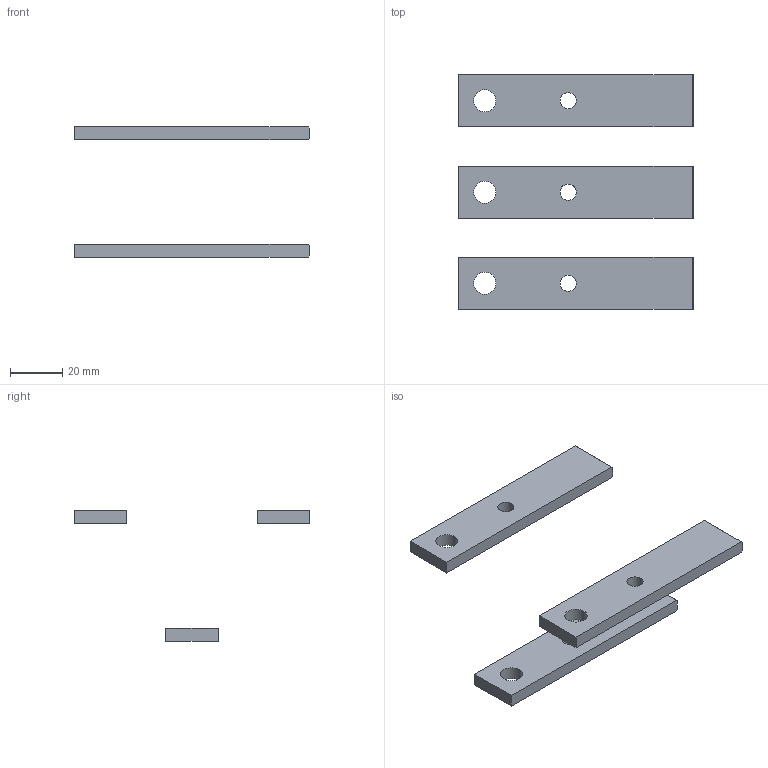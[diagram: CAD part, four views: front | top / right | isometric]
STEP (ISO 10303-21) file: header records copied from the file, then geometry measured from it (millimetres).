
FILE_DESCRIPTION(('CAx-IF Rec.Pracs.---Model Styling and Organization---1.2---2011-12-15','CAx-IF Rec.Pracs.---Geometric and Assembly Validation Properties---4.1---2014-06-16','CAx-IF Rec.Pracs.---PMI Polyline Presentation---2.0---2013-05-24'),'2;1');
FILE_NAME('R5M2WBB3P2-2.stp','2021-05-05T11:53:30+03:00',(''),(''),'STEP Interface 4.4 by CT CoreTechnologie','3D_Evolution4.4 by CT CoreTechnologie','');
FILE_SCHEMA(('AUTOMOTIVE_DESIGN { 1 0 10303 214 1 1 1 1 }'));
Length unit declared in the file: millimetre
Products named in the file (2): R5M2WBB3P2-2; RB.1291.00.00.0_-00
Assembly tree (3 placements, depth 2):
  R5M2WBB3P2-2
    RB.1291.00.00.0_-00  x3
Bounding box: 90 x 90 x 50 mm (x, y, z)
Surface area: 14234.5 mm2 (no closed solid volume)
Topology: 0 solids, 3 shells, 36 faces, 90 edges, 60 vertices
Faces by surface type: plane 24, cylinder 12
Entity records: 483 total; most frequent: DIRECTION 70, CARTESIAN_POINT 66, ORIENTED_EDGE 60, EDGE_CURVE 30, AXIS2_PLACEMENT_3D 24, VECTOR 22, LINE 22, VERTEX_POINT 20
